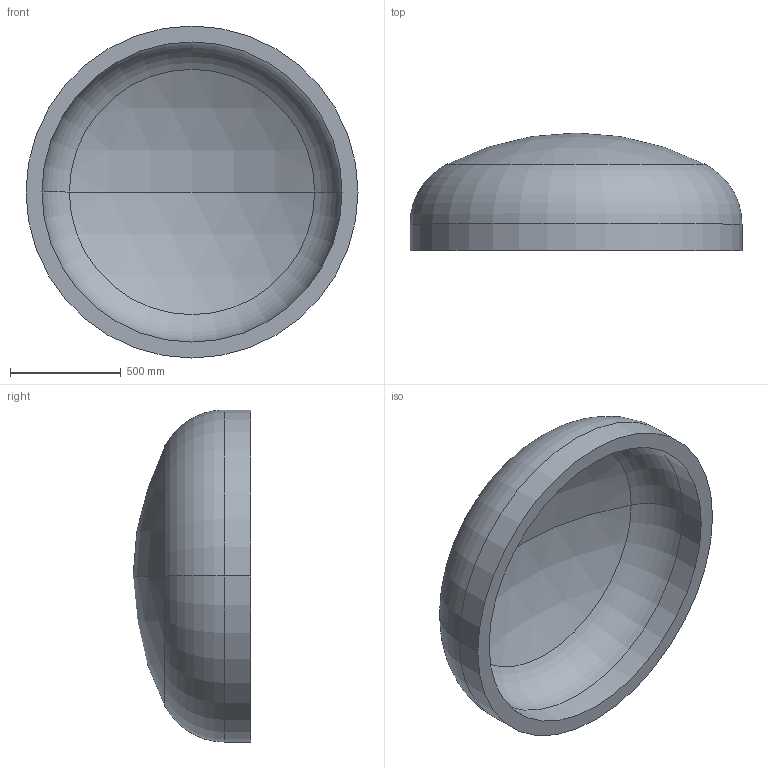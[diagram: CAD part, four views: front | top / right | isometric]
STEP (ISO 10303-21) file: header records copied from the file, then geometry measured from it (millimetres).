
FILE_DESCRIPTION (( 'STEP AP203' ), '1' );
FILE_NAME ('DIN 28013 Korbbogenform_-_Boden DIN 28013 - 1500 x 120 - I - s=72.step', '2016-07-01T10:53:01', ( '' ), ( '' ), 'SwSTEP 2.0', 'SolidWorks 2013', '' );
FILE_SCHEMA (( 'CONFIG_CONTROL_DESIGN' ));
Length unit declared in the file: millimetre
Products named in the file (1): DIN 28013 Korbbogenform_-_Boden DIN 28013 - 1500 x 120 - I - s=72
Bounding box: 1500 x 531.65 x 1500 mm (x, y, z)
Volume: 204274256.6 mm3; surface area: 6008146.8 mm2
Topology: 1 solids, 1 shells, 13 faces, 24 edges, 14 vertices
Faces by surface type: torus 4, cylinder 4, sphere 4, plane 1
Entity records: 407 total; most frequent: DIRECTION 72, CARTESIAN_POINT 52, ORIENTED_EDGE 48, AXIS2_PLACEMENT_3D 34, EDGE_CURVE 24, CIRCLE 20, EDGE_LOOP 14, VERTEX_POINT 14
